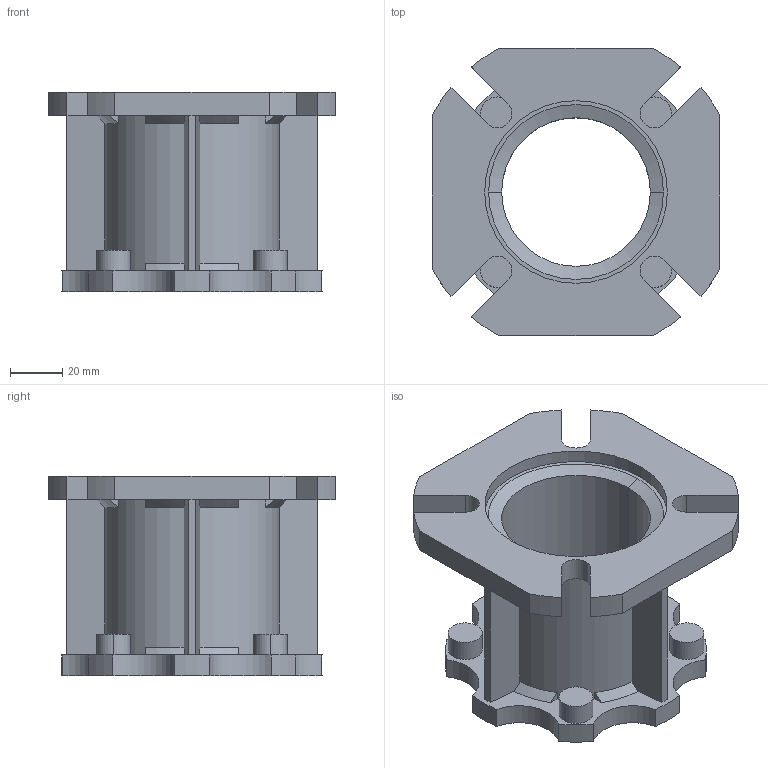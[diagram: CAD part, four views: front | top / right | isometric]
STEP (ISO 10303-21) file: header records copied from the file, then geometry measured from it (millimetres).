
FILE_DESCRIPTION(/* description */ (''),/* implementation_level */ '2;1');
FILE_NAME(/* name */ '2_FLANGIA (CAMPANA) LATERALE FB BA42',/* time_stamp */ '2025-10-22T11:37:46+02:00',/* author */ (''),/* organization */ (''),/* preprocessor_version */ 'ST-DEVELOPER v19.2',/* originating_system */ 'Rhino 8.23',/* authorisation */ '');
FILE_SCHEMA (('CONFIG_CONTROL_DESIGN'));
Length unit declared in the file: millimetre
Products named in the file (2): Document; BFUA42FB
Bounding box: 110 x 110 x 76.5 mm (x, y, z)
Volume: 165246.6 mm3; surface area: 61704.6 mm2
Topology: 1 solids, 1 shells, 116 faces, 314 edges, 208 vertices
Faces by surface type: plane 50, cylinder 46, bspline 20
Entity records: 5201 total; most frequent: CARTESIAN_POINT 1456, ORIENTED_EDGE 628, DIRECTION 360, EDGE_CURVE 314, AXIS2_PLACEMENT_3D 228, VERTEX_POINT 208, B_SPLINE_CURVE_WITH_KNOTS 186, TRIMMED_CURVE 128
